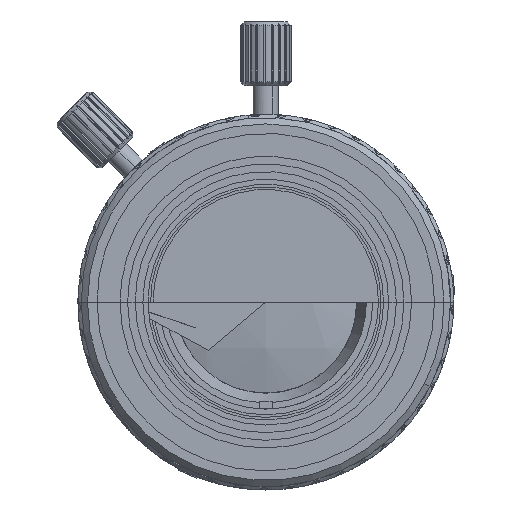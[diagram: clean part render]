
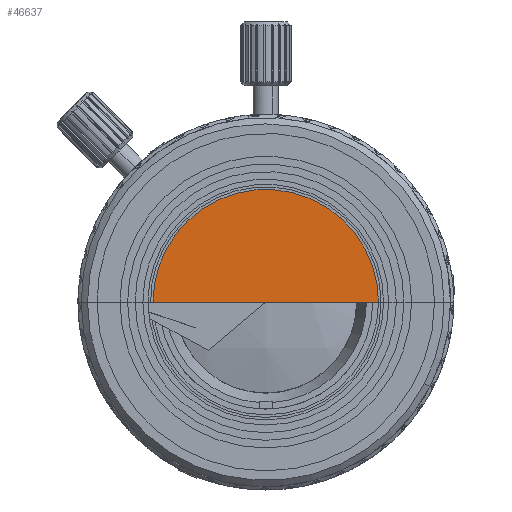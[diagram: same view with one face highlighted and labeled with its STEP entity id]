
A CAD part, left-side view. The second image highlights one B-rep face of the part: STEP entity #46637.
In plain terms, the highlighted planar face has unit normal (-1, 0, 0) as drawn and (1, 0, 0) by its records, which use the part's own axes.
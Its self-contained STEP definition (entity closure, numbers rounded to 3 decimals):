
#944 = ORIENTED_EDGE ( 'NONE', *, *, #50916, .F. ) ;
#1629 = CARTESIAN_POINT ( 'NONE',  ( -10.341, -2.374, 34.223 ) ) ;
#2480 = EDGE_LOOP ( 'NONE', ( #944, #58720, #38739, #49574, #51220, #56388 ) ) ;
#3132 = EDGE_CURVE ( 'NONE', #5101, #27839, #36685, .T. ) ;
#5101 = VERTEX_POINT ( 'NONE', #19537 ) ;
#7241 = VECTOR ( 'NONE', #32266, 1000. ) ;
#8581 = AXIS2_PLACEMENT_3D ( 'NONE', #33811, #52932, #9816 ) ;
#9412 = DIRECTION ( 'NONE',  ( 0., 0.89, 0.457 ) ) ;
#9816 = DIRECTION ( 'NONE',  ( 0., -0.89, -0.457 ) ) ;
#12663 = AXIS2_PLACEMENT_3D ( 'NONE', #1629, #20833, #40104 ) ;
#12673 = DIRECTION ( 'NONE',  ( 0., 1., 0. ) ) ;
#12982 = CARTESIAN_POINT ( 'NONE',  ( -10.341, -2.374, 34.223 ) ) ;
#13606 = AXIS2_PLACEMENT_3D ( 'NONE', #40834, #60005, #16857 ) ;
#16857 = DIRECTION ( 'NONE',  ( 0., 0.89, 0.457 ) ) ;
#17187 = CARTESIAN_POINT ( 'NONE',  ( -10.341, 8.976, 34.223 ) ) ;
#19405 = VECTOR ( 'NONE', #12673, 1000. ) ;
#19537 = CARTESIAN_POINT ( 'NONE',  ( -10.341, 8.976, 34.223 ) ) ;
#20833 = DIRECTION ( 'NONE',  ( 1., 0., 0. ) ) ;
#21573 = CARTESIAN_POINT ( 'NONE',  ( -10.341, -2.374, 34.223 ) ) ;
#22556 = VERTEX_POINT ( 'NONE', #24797 ) ;
#23656 = FACE_OUTER_BOUND ( 'NONE', #2480, .T. ) ;
#23966 = EDGE_CURVE ( 'NONE', #48820, #22556, #39875, .T. ) ;
#24010 = CIRCLE ( 'NONE', #59187, 11.35 ) ;
#24472 = CARTESIAN_POINT ( 'NONE',  ( -10.341, -13.724, 34.223 ) ) ;
#24797 = CARTESIAN_POINT ( 'NONE',  ( -10.341, -13.724, 34.223 ) ) ;
#25439 = AXIS2_PLACEMENT_3D ( 'NONE', #21573, #40843, #60012 ) ;
#27839 = VERTEX_POINT ( 'NONE', #17187 ) ;
#30404 = VERTEX_POINT ( 'NONE', #24472 ) ;
#32266 = DIRECTION ( 'NONE',  ( 0., 1., 0. ) ) ;
#33405 = CARTESIAN_POINT ( 'NONE',  ( -10.341, -2.374, 34.223 ) ) ;
#33811 = CARTESIAN_POINT ( 'NONE',  ( -10.341, -2.374, 34.223 ) ) ;
#36685 = LINE ( 'NONE', #55821, #19405 ) ;
#38739 = ORIENTED_EDGE ( 'NONE', *, *, #23966, .F. ) ;
#39875 = CIRCLE ( 'NONE', #12663, 11.35 ) ;
#40104 = DIRECTION ( 'NONE',  ( 0., 0., -1. ) ) ;
#40809 = CIRCLE ( 'NONE', #13606, 11.35 ) ;
#40834 = CARTESIAN_POINT ( 'NONE',  ( -10.341, -2.374, 34.223 ) ) ;
#40843 = DIRECTION ( 'NONE',  ( 1., 0., 0. ) ) ;
#42928 = PLANE ( 'NONE',  #8581 ) ;
#45102 = EDGE_CURVE ( 'NONE', #5101, #48820, #52594, .T. ) ;
#46637 = ADVANCED_FACE ( 'NONE', ( #23656 ), #42928, .T. ) ;
#48820 = VERTEX_POINT ( 'NONE', #56024 ) ;
#49574 = ORIENTED_EDGE ( 'NONE', *, *, #45102, .F. ) ;
#49916 = VERTEX_POINT ( 'NONE', #57822 ) ;
#50916 = EDGE_CURVE ( 'NONE', #30404, #49916, #40809, .T. ) ;
#51220 = ORIENTED_EDGE ( 'NONE', *, *, #3132, .T. ) ;
#52520 = DIRECTION ( 'NONE',  ( -1., 0., 0. ) ) ;
#52594 = CIRCLE ( 'NONE', #25439, 11.35 ) ;
#52932 = DIRECTION ( 'NONE',  ( 1., 0., 0. ) ) ;
#55821 = CARTESIAN_POINT ( 'NONE',  ( -10.341, -2.374, 34.223 ) ) ;
#56024 = CARTESIAN_POINT ( 'NONE',  ( -10.341, -2.374, 45.573 ) ) ;
#56144 = LINE ( 'NONE', #12982, #7241 ) ;
#56388 = ORIENTED_EDGE ( 'NONE', *, *, #58218, .F. ) ;
#57822 = CARTESIAN_POINT ( 'NONE',  ( -10.341, 7.724, 39.405 ) ) ;
#58218 = EDGE_CURVE ( 'NONE', #49916, #27839, #24010, .T. ) ;
#58720 = ORIENTED_EDGE ( 'NONE', *, *, #60654, .T. ) ;
#59187 = AXIS2_PLACEMENT_3D ( 'NONE', #33405, #52520, #9412 ) ;
#60005 = DIRECTION ( 'NONE',  ( -1., 0., 0. ) ) ;
#60012 = DIRECTION ( 'NONE',  ( 0., 0., -1. ) ) ;
#60654 = EDGE_CURVE ( 'NONE', #30404, #22556, #56144, .T. ) ;
